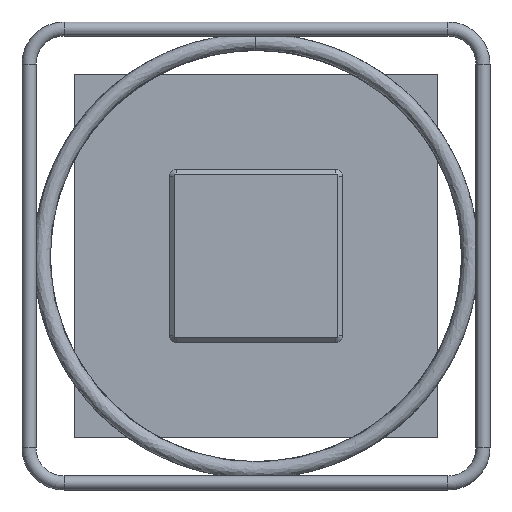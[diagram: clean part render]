
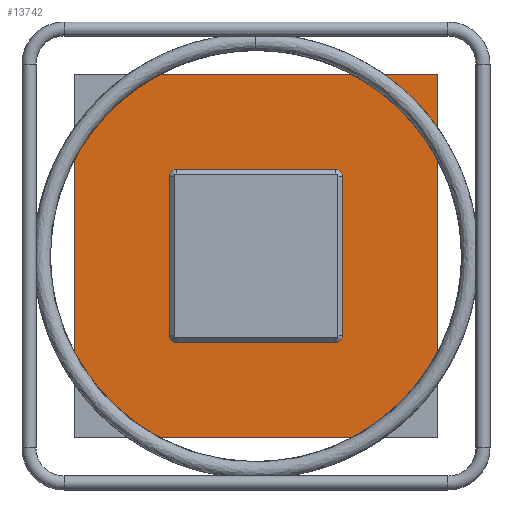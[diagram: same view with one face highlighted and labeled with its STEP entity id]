
A CAD part, front view. The second image highlights one B-rep face of the part: STEP entity #13742.
In plain terms, the highlighted planar face has unit normal (0, -1, 0).
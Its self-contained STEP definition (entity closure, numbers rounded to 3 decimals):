
#91=CIRCLE('',#14140,183.);
#92=CIRCLE('',#14141,183.);
#93=CIRCLE('',#14142,183.);
#114=CIRCLE('',#14188,6.);
#116=CIRCLE('',#14192,6.);
#118=CIRCLE('',#14196,6.);
#120=CIRCLE('',#14200,6.);
#249=FACE_BOUND('',#2723,.T.);
#1897=FACE_OUTER_BOUND('',#2722,.T.);
#2722=EDGE_LOOP('',(#11871,#11872,#11873,#11874,#11875,#11876,#11877));
#2723=EDGE_LOOP('',(#11878,#11879,#11880,#11881,#11882,#11883,#11884,#11885));
#3923=LINE('',#27542,#5092);
#3926=LINE('',#27553,#5095);
#3930=LINE('',#27565,#5099);
#3934=LINE('',#27577,#5103);
#3941=LINE('',#27592,#5110);
#3942=LINE('',#27593,#5111);
#3943=LINE('',#27595,#5112);
#3944=LINE('',#27596,#5113);
#5092=VECTOR('',#16223,136.);
#5095=VECTOR('',#16234,136.);
#5099=VECTOR('',#16246,136.);
#5103=VECTOR('',#16258,136.);
#5110=VECTOR('',#16281,194.566);
#5111=VECTOR('',#16282,194.566);
#5112=VECTOR('',#16283,252.283);
#5113=VECTOR('',#16284,252.283);
#6302=VERTEX_POINT('',#27437);
#6303=VERTEX_POINT('',#27438);
#6304=VERTEX_POINT('',#27440);
#6305=VERTEX_POINT('',#27441);
#6306=VERTEX_POINT('',#27443);
#6307=VERTEX_POINT('',#27444);
#6339=VERTEX_POINT('',#27535);
#6342=VERTEX_POINT('',#27540);
#6344=VERTEX_POINT('',#27545);
#6346=VERTEX_POINT('',#27551);
#6348=VERTEX_POINT('',#27557);
#6350=VERTEX_POINT('',#27563);
#6352=VERTEX_POINT('',#27569);
#6354=VERTEX_POINT('',#27575);
#6355=VERTEX_POINT('',#27594);
#8142=EDGE_CURVE('',#6302,#6303,#91,.T.);
#8143=EDGE_CURVE('',#6304,#6305,#92,.T.);
#8144=EDGE_CURVE('',#6306,#6307,#93,.T.);
#8182=EDGE_CURVE('',#6342,#6339,#3923,.T.);
#8184=EDGE_CURVE('',#6344,#6342,#114,.T.);
#8187=EDGE_CURVE('',#6346,#6344,#3926,.T.);
#8190=EDGE_CURVE('',#6348,#6346,#116,.T.);
#8193=EDGE_CURVE('',#6350,#6348,#3930,.T.);
#8196=EDGE_CURVE('',#6352,#6350,#118,.T.);
#8199=EDGE_CURVE('',#6354,#6352,#3934,.T.);
#8201=EDGE_CURVE('',#6339,#6354,#120,.T.);
#8208=EDGE_CURVE('',#6304,#6303,#3941,.T.);
#8209=EDGE_CURVE('',#6306,#6305,#3942,.T.);
#8210=EDGE_CURVE('',#6355,#6307,#3943,.T.);
#8211=EDGE_CURVE('',#6302,#6355,#3944,.T.);
#11871=ORIENTED_EDGE('',*,*,#8142,.T.);
#11872=ORIENTED_EDGE('',*,*,#8208,.F.);
#11873=ORIENTED_EDGE('',*,*,#8143,.T.);
#11874=ORIENTED_EDGE('',*,*,#8209,.F.);
#11875=ORIENTED_EDGE('',*,*,#8144,.T.);
#11876=ORIENTED_EDGE('',*,*,#8210,.F.);
#11877=ORIENTED_EDGE('',*,*,#8211,.F.);
#11878=ORIENTED_EDGE('',*,*,#8182,.F.);
#11879=ORIENTED_EDGE('',*,*,#8184,.F.);
#11880=ORIENTED_EDGE('',*,*,#8187,.F.);
#11881=ORIENTED_EDGE('',*,*,#8190,.F.);
#11882=ORIENTED_EDGE('',*,*,#8193,.F.);
#11883=ORIENTED_EDGE('',*,*,#8196,.F.);
#11884=ORIENTED_EDGE('',*,*,#8199,.F.);
#11885=ORIENTED_EDGE('',*,*,#8201,.F.);
#12322=PLANE('',#14206);
#13742=ADVANCED_FACE('',(#1897,#249),#12322,.F.);
#14140=AXIS2_PLACEMENT_3D('',#27439,#16112,#16113);
#14141=AXIS2_PLACEMENT_3D('',#27442,#16114,#16115);
#14142=AXIS2_PLACEMENT_3D('',#27445,#16116,#16117);
#14188=AXIS2_PLACEMENT_3D('',#27547,#16227,#16228);
#14192=AXIS2_PLACEMENT_3D('',#27559,#16239,#16240);
#14196=AXIS2_PLACEMENT_3D('',#27571,#16251,#16252);
#14200=AXIS2_PLACEMENT_3D('',#27580,#16262,#16263);
#14206=AXIS2_PLACEMENT_3D('',#27591,#16279,#16280);
#16112=DIRECTION('center_axis',(0.,-1.,0.));
#16113=DIRECTION('ref_axis',(0.,0.,-1.));
#16114=DIRECTION('center_axis',(0.,-1.,0.));
#16115=DIRECTION('ref_axis',(0.,0.,-1.));
#16116=DIRECTION('center_axis',(0.,-1.,0.));
#16117=DIRECTION('ref_axis',(0.,0.,-1.));
#16223=DIRECTION('',(-1.,0.,0.));
#16227=DIRECTION('center_axis',(0.,-1.,0.));
#16228=DIRECTION('ref_axis',(1.,0.,0.));
#16234=DIRECTION('',(0.,0.,1.));
#16239=DIRECTION('center_axis',(0.,-1.,0.));
#16240=DIRECTION('ref_axis',(0.,0.,-1.));
#16246=DIRECTION('',(1.,0.,0.));
#16251=DIRECTION('center_axis',(0.,-1.,0.));
#16252=DIRECTION('ref_axis',(-1.,0.,0.));
#16258=DIRECTION('',(0.,0.,-1.));
#16262=DIRECTION('center_axis',(0.,-1.,0.));
#16263=DIRECTION('ref_axis',(0.,0.,1.));
#16279=DIRECTION('center_axis',(0.,1.,0.));
#16280=DIRECTION('ref_axis',(0.,0.,1.));
#16281=DIRECTION('',(0.,0.,1.));
#16282=DIRECTION('',(-1.,0.,0.));
#16283=DIRECTION('',(0.,0.,-1.));
#16284=DIRECTION('',(1.,0.,0.));
#27437=CARTESIAN_POINT('',(-97.283,0.,155.));
#27438=CARTESIAN_POINT('',(-155.,0.,97.283));
#27439=CARTESIAN_POINT('Origin',(0.,0.,0.));
#27440=CARTESIAN_POINT('',(-155.,0.,-97.283));
#27441=CARTESIAN_POINT('',(-97.283,0.,-155.));
#27442=CARTESIAN_POINT('Origin',(0.,0.,0.));
#27443=CARTESIAN_POINT('',(97.283,0.,-155.));
#27444=CARTESIAN_POINT('',(155.,0.,-97.283));
#27445=CARTESIAN_POINT('Origin',(0.,0.,0.));
#27535=CARTESIAN_POINT('',(-68.,0.,74.));
#27540=CARTESIAN_POINT('',(68.,0.,74.));
#27542=CARTESIAN_POINT('',(-34.,0.,74.));
#27545=CARTESIAN_POINT('',(74.,0.,68.));
#27547=CARTESIAN_POINT('Origin',(68.,0.,68.));
#27551=CARTESIAN_POINT('',(74.,0.,-68.));
#27553=CARTESIAN_POINT('',(74.,0.,34.));
#27557=CARTESIAN_POINT('',(68.,0.,-74.));
#27559=CARTESIAN_POINT('Origin',(68.,0.,-68.));
#27563=CARTESIAN_POINT('',(-68.,0.,-74.));
#27565=CARTESIAN_POINT('',(34.,0.,-74.));
#27569=CARTESIAN_POINT('',(-74.,0.,-68.));
#27571=CARTESIAN_POINT('Origin',(-68.,0.,-68.));
#27575=CARTESIAN_POINT('',(-74.,0.,68.));
#27577=CARTESIAN_POINT('',(-74.,0.,-34.));
#27580=CARTESIAN_POINT('Origin',(-68.,0.,68.));
#27591=CARTESIAN_POINT('Origin',(0.,0.,0.));
#27592=CARTESIAN_POINT('',(-155.,0.,-155.));
#27593=CARTESIAN_POINT('',(155.,0.,-155.));
#27594=CARTESIAN_POINT('',(155.,0.,155.));
#27595=CARTESIAN_POINT('',(155.,0.,155.));
#27596=CARTESIAN_POINT('',(-155.,0.,155.));
